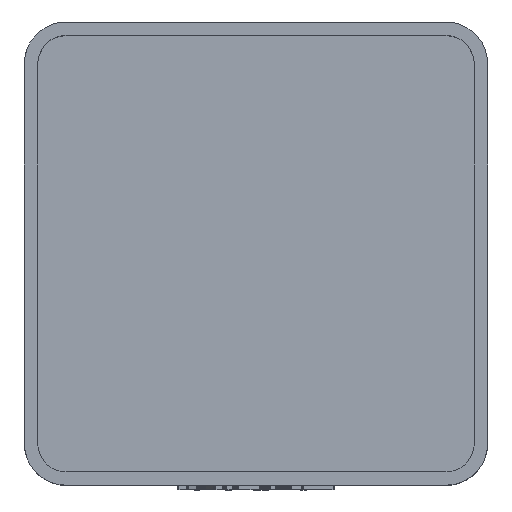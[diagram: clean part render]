
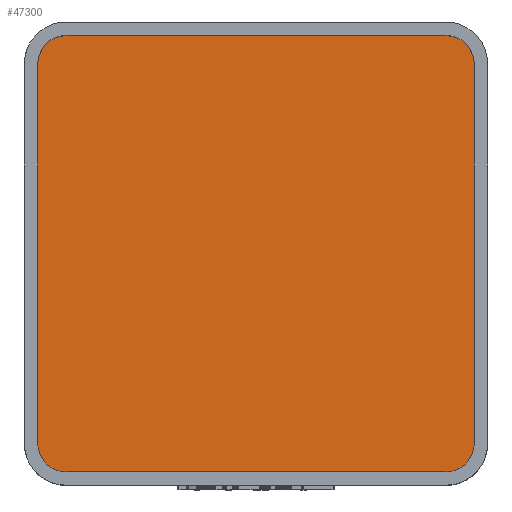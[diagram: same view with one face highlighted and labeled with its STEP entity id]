
A CAD part, top view. The second image highlights one B-rep face of the part: STEP entity #47300.
In plain terms, the highlighted planar face has unit normal (0, 0, 1).
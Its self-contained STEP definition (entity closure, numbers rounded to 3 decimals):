
#1442 = PLANE('',#1443);
#1443 = AXIS2_PLACEMENT_3D('',#1444,#1445,#1446);
#1444 = CARTESIAN_POINT('',(-19.55,-17.,4.75));
#1445 = DIRECTION('',(-1.,0.,0.));
#1446 = DIRECTION('',(0.,1.,0.));
#1474 = CYLINDRICAL_SURFACE('',#1475,2.55);
#1475 = AXIS2_PLACEMENT_3D('',#1476,#1477,#1478);
#1476 = CARTESIAN_POINT('',(-17.,17.,4.75));
#1477 = DIRECTION('',(-0.,-0.,-1.));
#1478 = DIRECTION('',(1.,0.,0.));
#1501 = PLANE('',#1502);
#1502 = AXIS2_PLACEMENT_3D('',#1503,#1504,#1505);
#1503 = CARTESIAN_POINT('',(-17.,19.55,4.75));
#1504 = DIRECTION('',(0.,1.,0.));
#1505 = DIRECTION('',(1.,0.,0.));
#1533 = CYLINDRICAL_SURFACE('',#1534,2.55);
#1534 = AXIS2_PLACEMENT_3D('',#1535,#1536,#1537);
#1535 = CARTESIAN_POINT('',(17.,17.,4.75));
#1536 = DIRECTION('',(-0.,-0.,-1.));
#1537 = DIRECTION('',(1.,0.,0.));
#1560 = PLANE('',#1561);
#1561 = AXIS2_PLACEMENT_3D('',#1562,#1563,#1564);
#1562 = CARTESIAN_POINT('',(19.55,-17.,4.75));
#1563 = DIRECTION('',(-1.,0.,0.));
#1564 = DIRECTION('',(0.,1.,0.));
#1592 = CYLINDRICAL_SURFACE('',#1593,2.55);
#1593 = AXIS2_PLACEMENT_3D('',#1594,#1595,#1596);
#1594 = CARTESIAN_POINT('',(17.,-17.,4.75));
#1595 = DIRECTION('',(-0.,-0.,-1.));
#1596 = DIRECTION('',(1.,0.,0.));
#1619 = PLANE('',#1620);
#1620 = AXIS2_PLACEMENT_3D('',#1621,#1622,#1623);
#1621 = CARTESIAN_POINT('',(-17.,-19.55,4.75));
#1622 = DIRECTION('',(0.,1.,0.));
#1623 = DIRECTION('',(1.,0.,0.));
#1649 = CYLINDRICAL_SURFACE('',#1650,2.55);
#1650 = AXIS2_PLACEMENT_3D('',#1651,#1652,#1653);
#1651 = CARTESIAN_POINT('',(-17.,-17.,4.75));
#1652 = DIRECTION('',(-0.,-0.,-1.));
#1653 = DIRECTION('',(1.,0.,0.));
#17419 = EDGE_CURVE('',#17420,#17422,#17424,.T.);
#17420 = VERTEX_POINT('',#17421);
#17421 = CARTESIAN_POINT('',(-19.55,-17.,4.75));
#17422 = VERTEX_POINT('',#17423);
#17423 = CARTESIAN_POINT('',(-19.55,17.,4.75));
#17424 = SURFACE_CURVE('',#17425,(#17429,#17436),.PCURVE_S1.);
#17425 = LINE('',#17426,#17427);
#17426 = CARTESIAN_POINT('',(-19.55,0.,4.75));
#17427 = VECTOR('',#17428,1.);
#17428 = DIRECTION('',(0.,1.,0.));
#17429 = PCURVE('',#1442,#17430);
#17430 = DEFINITIONAL_REPRESENTATION('',(#17431),#17435);
#17431 = LINE('',#17432,#17433);
#17432 = CARTESIAN_POINT('',(17.,0.));
#17433 = VECTOR('',#17434,1.);
#17434 = DIRECTION('',(1.,0.));
#17435 = ( GEOMETRIC_REPRESENTATION_CONTEXT(2) 
PARAMETRIC_REPRESENTATION_CONTEXT() REPRESENTATION_CONTEXT('2D SPACE',''
  ) );
#17436 = PCURVE('',#17437,#17442);
#17437 = PLANE('',#17438);
#17438 = AXIS2_PLACEMENT_3D('',#17439,#17440,#17441);
#17439 = CARTESIAN_POINT('',(0.,0.,4.75
    ));
#17440 = DIRECTION('',(0.,0.,1.));
#17441 = DIRECTION('',(1.,0.,-0.));
#17442 = DEFINITIONAL_REPRESENTATION('',(#17443),#17447);
#17443 = LINE('',#17444,#17445);
#17444 = CARTESIAN_POINT('',(-19.55,0.));
#17445 = VECTOR('',#17446,1.);
#17446 = DIRECTION('',(0.,1.));
#17447 = ( GEOMETRIC_REPRESENTATION_CONTEXT(2) 
PARAMETRIC_REPRESENTATION_CONTEXT() REPRESENTATION_CONTEXT('2D SPACE',''
  ) );
#17495 = EDGE_CURVE('',#17420,#17496,#17498,.T.);
#17496 = VERTEX_POINT('',#17497);
#17497 = CARTESIAN_POINT('',(-17.,-19.55,4.75));
#17498 = SURFACE_CURVE('',#17499,(#17504,#17511),.PCURVE_S1.);
#17499 = CIRCLE('',#17500,2.55);
#17500 = AXIS2_PLACEMENT_3D('',#17501,#17502,#17503);
#17501 = CARTESIAN_POINT('',(-17.,-17.,4.75));
#17502 = DIRECTION('',(0.,0.,1.));
#17503 = DIRECTION('',(1.,0.,0.));
#17504 = PCURVE('',#1649,#17505);
#17505 = DEFINITIONAL_REPRESENTATION('',(#17506),#17510);
#17506 = LINE('',#17507,#17508);
#17507 = CARTESIAN_POINT('',(-0.,0.));
#17508 = VECTOR('',#17509,1.);
#17509 = DIRECTION('',(-1.,0.));
#17510 = ( GEOMETRIC_REPRESENTATION_CONTEXT(2) 
PARAMETRIC_REPRESENTATION_CONTEXT() REPRESENTATION_CONTEXT('2D SPACE',''
  ) );
#17511 = PCURVE('',#17437,#17512);
#17512 = DEFINITIONAL_REPRESENTATION('',(#17513),#17517);
#17513 = CIRCLE('',#17514,2.55);
#17514 = AXIS2_PLACEMENT_2D('',#17515,#17516);
#17515 = CARTESIAN_POINT('',(-17.,-17.));
#17516 = DIRECTION('',(1.,0.));
#17517 = ( GEOMETRIC_REPRESENTATION_CONTEXT(2) 
PARAMETRIC_REPRESENTATION_CONTEXT() REPRESENTATION_CONTEXT('2D SPACE',''
  ) );
#17545 = EDGE_CURVE('',#17496,#17546,#17548,.T.);
#17546 = VERTEX_POINT('',#17547);
#17547 = CARTESIAN_POINT('',(17.,-19.55,4.75));
#17548 = SURFACE_CURVE('',#17549,(#17553,#17560),.PCURVE_S1.);
#17549 = LINE('',#17550,#17551);
#17550 = CARTESIAN_POINT('',(0.,-19.55,4.75));
#17551 = VECTOR('',#17552,1.);
#17552 = DIRECTION('',(1.,0.,0.));
#17553 = PCURVE('',#1619,#17554);
#17554 = DEFINITIONAL_REPRESENTATION('',(#17555),#17559);
#17555 = LINE('',#17556,#17557);
#17556 = CARTESIAN_POINT('',(17.,0.));
#17557 = VECTOR('',#17558,1.);
#17558 = DIRECTION('',(1.,0.));
#17559 = ( GEOMETRIC_REPRESENTATION_CONTEXT(2) 
PARAMETRIC_REPRESENTATION_CONTEXT() REPRESENTATION_CONTEXT('2D SPACE',''
  ) );
#17560 = PCURVE('',#17437,#17561);
#17561 = DEFINITIONAL_REPRESENTATION('',(#17562),#17566);
#17562 = LINE('',#17563,#17564);
#17563 = CARTESIAN_POINT('',(0.,-19.55));
#17564 = VECTOR('',#17565,1.);
#17565 = DIRECTION('',(1.,0.));
#17566 = ( GEOMETRIC_REPRESENTATION_CONTEXT(2) 
PARAMETRIC_REPRESENTATION_CONTEXT() REPRESENTATION_CONTEXT('2D SPACE',''
  ) );
#17594 = EDGE_CURVE('',#17546,#17595,#17597,.T.);
#17595 = VERTEX_POINT('',#17596);
#17596 = CARTESIAN_POINT('',(19.55,-17.,4.75));
#17597 = SURFACE_CURVE('',#17598,(#17603,#17610),.PCURVE_S1.);
#17598 = CIRCLE('',#17599,2.55);
#17599 = AXIS2_PLACEMENT_3D('',#17600,#17601,#17602);
#17600 = CARTESIAN_POINT('',(17.,-17.,4.75));
#17601 = DIRECTION('',(0.,0.,1.));
#17602 = DIRECTION('',(1.,0.,0.));
#17603 = PCURVE('',#1592,#17604);
#17604 = DEFINITIONAL_REPRESENTATION('',(#17605),#17609);
#17605 = LINE('',#17606,#17607);
#17606 = CARTESIAN_POINT('',(-0.,0.));
#17607 = VECTOR('',#17608,1.);
#17608 = DIRECTION('',(-1.,0.));
#17609 = ( GEOMETRIC_REPRESENTATION_CONTEXT(2) 
PARAMETRIC_REPRESENTATION_CONTEXT() REPRESENTATION_CONTEXT('2D SPACE',''
  ) );
#17610 = PCURVE('',#17437,#17611);
#17611 = DEFINITIONAL_REPRESENTATION('',(#17612),#17616);
#17612 = CIRCLE('',#17613,2.55);
#17613 = AXIS2_PLACEMENT_2D('',#17614,#17615);
#17614 = CARTESIAN_POINT('',(17.,-17.));
#17615 = DIRECTION('',(1.,0.));
#17616 = ( GEOMETRIC_REPRESENTATION_CONTEXT(2) 
PARAMETRIC_REPRESENTATION_CONTEXT() REPRESENTATION_CONTEXT('2D SPACE',''
  ) );
#17644 = EDGE_CURVE('',#17595,#17645,#17647,.T.);
#17645 = VERTEX_POINT('',#17646);
#17646 = CARTESIAN_POINT('',(19.55,17.,4.75));
#17647 = SURFACE_CURVE('',#17648,(#17652,#17659),.PCURVE_S1.);
#17648 = LINE('',#17649,#17650);
#17649 = CARTESIAN_POINT('',(19.55,0.,4.75));
#17650 = VECTOR('',#17651,1.);
#17651 = DIRECTION('',(0.,1.,0.));
#17652 = PCURVE('',#1560,#17653);
#17653 = DEFINITIONAL_REPRESENTATION('',(#17654),#17658);
#17654 = LINE('',#17655,#17656);
#17655 = CARTESIAN_POINT('',(17.,0.));
#17656 = VECTOR('',#17657,1.);
#17657 = DIRECTION('',(1.,0.));
#17658 = ( GEOMETRIC_REPRESENTATION_CONTEXT(2) 
PARAMETRIC_REPRESENTATION_CONTEXT() REPRESENTATION_CONTEXT('2D SPACE',''
  ) );
#17659 = PCURVE('',#17437,#17660);
#17660 = DEFINITIONAL_REPRESENTATION('',(#17661),#17665);
#17661 = LINE('',#17662,#17663);
#17662 = CARTESIAN_POINT('',(19.55,0.));
#17663 = VECTOR('',#17664,1.);
#17664 = DIRECTION('',(0.,1.));
#17665 = ( GEOMETRIC_REPRESENTATION_CONTEXT(2) 
PARAMETRIC_REPRESENTATION_CONTEXT() REPRESENTATION_CONTEXT('2D SPACE',''
  ) );
#17693 = EDGE_CURVE('',#17645,#17694,#17696,.T.);
#17694 = VERTEX_POINT('',#17695);
#17695 = CARTESIAN_POINT('',(17.,19.55,4.75));
#17696 = SURFACE_CURVE('',#17697,(#17702,#17709),.PCURVE_S1.);
#17697 = CIRCLE('',#17698,2.55);
#17698 = AXIS2_PLACEMENT_3D('',#17699,#17700,#17701);
#17699 = CARTESIAN_POINT('',(17.,17.,4.75));
#17700 = DIRECTION('',(0.,0.,1.));
#17701 = DIRECTION('',(1.,0.,0.));
#17702 = PCURVE('',#1533,#17703);
#17703 = DEFINITIONAL_REPRESENTATION('',(#17704),#17708);
#17704 = LINE('',#17705,#17706);
#17705 = CARTESIAN_POINT('',(-0.,0.));
#17706 = VECTOR('',#17707,1.);
#17707 = DIRECTION('',(-1.,0.));
#17708 = ( GEOMETRIC_REPRESENTATION_CONTEXT(2) 
PARAMETRIC_REPRESENTATION_CONTEXT() REPRESENTATION_CONTEXT('2D SPACE',''
  ) );
#17709 = PCURVE('',#17437,#17710);
#17710 = DEFINITIONAL_REPRESENTATION('',(#17711),#17715);
#17711 = CIRCLE('',#17712,2.55);
#17712 = AXIS2_PLACEMENT_2D('',#17713,#17714);
#17713 = CARTESIAN_POINT('',(17.,17.));
#17714 = DIRECTION('',(1.,0.));
#17715 = ( GEOMETRIC_REPRESENTATION_CONTEXT(2) 
PARAMETRIC_REPRESENTATION_CONTEXT() REPRESENTATION_CONTEXT('2D SPACE',''
  ) );
#17743 = EDGE_CURVE('',#17744,#17694,#17746,.T.);
#17744 = VERTEX_POINT('',#17745);
#17745 = CARTESIAN_POINT('',(-17.,19.55,4.75));
#17746 = SURFACE_CURVE('',#17747,(#17751,#17758),.PCURVE_S1.);
#17747 = LINE('',#17748,#17749);
#17748 = CARTESIAN_POINT('',(0.,19.55,4.75));
#17749 = VECTOR('',#17750,1.);
#17750 = DIRECTION('',(1.,0.,0.));
#17751 = PCURVE('',#1501,#17752);
#17752 = DEFINITIONAL_REPRESENTATION('',(#17753),#17757);
#17753 = LINE('',#17754,#17755);
#17754 = CARTESIAN_POINT('',(17.,0.));
#17755 = VECTOR('',#17756,1.);
#17756 = DIRECTION('',(1.,0.));
#17757 = ( GEOMETRIC_REPRESENTATION_CONTEXT(2) 
PARAMETRIC_REPRESENTATION_CONTEXT() REPRESENTATION_CONTEXT('2D SPACE',''
  ) );
#17758 = PCURVE('',#17437,#17759);
#17759 = DEFINITIONAL_REPRESENTATION('',(#17760),#17764);
#17760 = LINE('',#17761,#17762);
#17761 = CARTESIAN_POINT('',(0.,19.55));
#17762 = VECTOR('',#17763,1.);
#17763 = DIRECTION('',(1.,0.));
#17764 = ( GEOMETRIC_REPRESENTATION_CONTEXT(2) 
PARAMETRIC_REPRESENTATION_CONTEXT() REPRESENTATION_CONTEXT('2D SPACE',''
  ) );
#17792 = EDGE_CURVE('',#17744,#17422,#17793,.T.);
#17793 = SURFACE_CURVE('',#17794,(#17799,#17806),.PCURVE_S1.);
#17794 = CIRCLE('',#17795,2.55);
#17795 = AXIS2_PLACEMENT_3D('',#17796,#17797,#17798);
#17796 = CARTESIAN_POINT('',(-17.,17.,4.75));
#17797 = DIRECTION('',(0.,0.,1.));
#17798 = DIRECTION('',(1.,0.,0.));
#17799 = PCURVE('',#1474,#17800);
#17800 = DEFINITIONAL_REPRESENTATION('',(#17801),#17805);
#17801 = LINE('',#17802,#17803);
#17802 = CARTESIAN_POINT('',(-0.,0.));
#17803 = VECTOR('',#17804,1.);
#17804 = DIRECTION('',(-1.,0.));
#17805 = ( GEOMETRIC_REPRESENTATION_CONTEXT(2) 
PARAMETRIC_REPRESENTATION_CONTEXT() REPRESENTATION_CONTEXT('2D SPACE',''
  ) );
#17806 = PCURVE('',#17437,#17807);
#17807 = DEFINITIONAL_REPRESENTATION('',(#17808),#17812);
#17808 = CIRCLE('',#17809,2.55);
#17809 = AXIS2_PLACEMENT_2D('',#17810,#17811);
#17810 = CARTESIAN_POINT('',(-17.,17.));
#17811 = DIRECTION('',(1.,0.));
#17812 = ( GEOMETRIC_REPRESENTATION_CONTEXT(2) 
PARAMETRIC_REPRESENTATION_CONTEXT() REPRESENTATION_CONTEXT('2D SPACE',''
  ) );
#47300 = ADVANCED_FACE('',(#47301),#17437,.T.);
#47301 = FACE_BOUND('',#47302,.T.);
#47302 = EDGE_LOOP('',(#47303,#47304,#47305,#47306,#47307,#47308,#47309,
    #47310));
#47303 = ORIENTED_EDGE('',*,*,#17419,.F.);
#47304 = ORIENTED_EDGE('',*,*,#17495,.T.);
#47305 = ORIENTED_EDGE('',*,*,#17545,.T.);
#47306 = ORIENTED_EDGE('',*,*,#17594,.T.);
#47307 = ORIENTED_EDGE('',*,*,#17644,.T.);
#47308 = ORIENTED_EDGE('',*,*,#17693,.T.);
#47309 = ORIENTED_EDGE('',*,*,#17743,.F.);
#47310 = ORIENTED_EDGE('',*,*,#17792,.T.);
